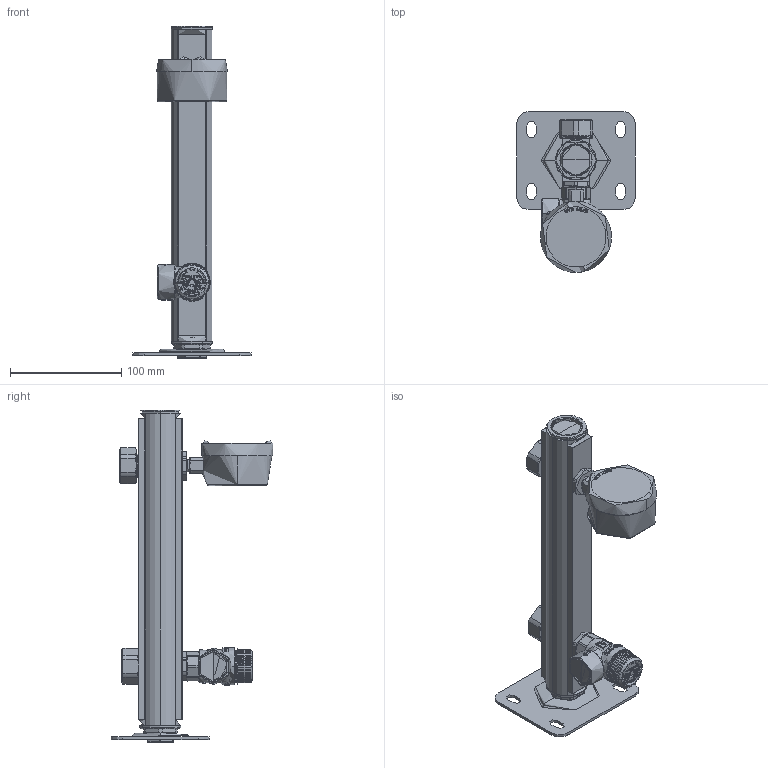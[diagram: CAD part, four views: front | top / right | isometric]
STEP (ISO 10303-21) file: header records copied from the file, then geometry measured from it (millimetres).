
FILE_DESCRIPTION (( 'STEP AP214' ), '1' );
FILE_NAME ('BSB_9062000.STEP', '2022-07-20T13:27:55', ( '' ), ( '' ), 'SwSTEP 2.0', 'SolidWorks 2022', '' );
FILE_SCHEMA (( 'AUTOMOTIVE_DESIGN' ));
Length unit declared in the file: millimetre
Products named in the file (21): nypel1_2na3_4; mocowanie2; 51605500; mocowanie; 52205500; Przylacze_calosc; 90005350; Bourdon-tube-safety-pressure-gauges-Type-D4-RF63SI-D402-854XX402; 5002 - 12x34 - 10005350; mocowanie1_2; uszczelka1_2cal; mocowanie1_1; nypel1_2na1_4; 53605130; BSB_9062000; 50705499; 30915205; profil; uszczelka1cal; 30005562
Assembly tree (23 placements, depth 4):
  BSB_9062000
    profil
    mocowanie
    mocowanie1_1
    mocowanie1_2
    uszczelka1cal  x2
    mocowanie2
    nypel1_2na1_4  x2
    nypel1_2na3_4
      nypel1_2na3_4
      uszczelka1_2cal
    Przylacze_calosc
      nypel1_2na3_4
        nypel1_2na3_4
        uszczelka1_2cal
    5002 - 12x34 - 10005350
      90005350
        30005562
        30915205
        53605130
        51605500
        50705499
        52205500
    Bourdon-tube-safety-pressure-gauges-Type-D4-RF63SI-D402-854XX402
Bounding box: 106 x 144.92 x 298 mm (x, y, z)
Topology: 17 solids, 40 shells, 2507 faces, 6805 edges, 4477 vertices
Faces by surface type: cylinder 867, plane 791, bspline 658, cone 191
Entity records: 165607 total; most frequent: CARTESIAN_POINT 90111, ORIENTED_EDGE 12520, DIRECTION 8036, EDGE_CURVE 6280, VERTEX_POINT 4159, VECTOR 2784, LINE 2784, AXIS2_PLACEMENT_3D 2626
